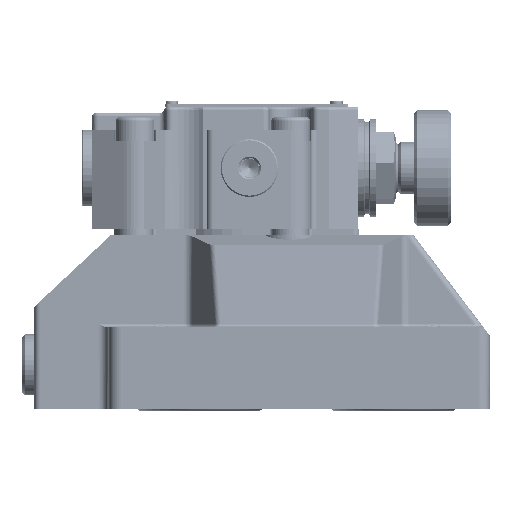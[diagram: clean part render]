
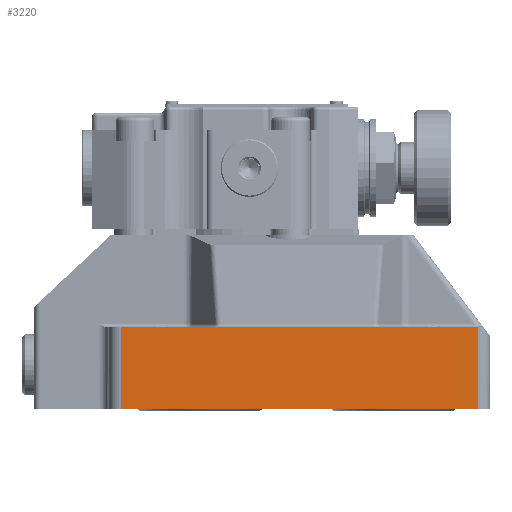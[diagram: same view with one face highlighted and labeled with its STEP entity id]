
A CAD part, front view. The second image highlights one B-rep face of the part: STEP entity #3220.
In plain terms, the highlighted planar face has unit normal (0, -1, 0).
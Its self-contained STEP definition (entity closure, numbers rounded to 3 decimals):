
#2054=FACE_OUTER_BOUND('',#5074,.T.);
#3220=ADVANCED_FACE('',(#2054),#3856,.T.);
#3856=PLANE('',#12610);
#5074=EDGE_LOOP('',(#6324,#6325,#6326,#6327));
#6324=ORIENTED_EDGE('',*,*,#10036,.T.);
#6325=ORIENTED_EDGE('',*,*,#10073,.T.);
#6326=ORIENTED_EDGE('',*,*,#9868,.F.);
#6327=ORIENTED_EDGE('',*,*,#10074,.T.);
#8825=VERTEX_POINT('',#28017);
#8826=VERTEX_POINT('',#28018);
#8989=VERTEX_POINT('',#28560);
#8990=VERTEX_POINT('',#28562);
#9868=EDGE_CURVE('',#8825,#8826,#11249,.T.);
#10036=EDGE_CURVE('',#8990,#8989,#11346,.T.);
#10073=EDGE_CURVE('',#8989,#8826,#11359,.T.);
#10074=EDGE_CURVE('',#8825,#8990,#11360,.T.);
#11249=LINE('',#28016,#11853);
#11346=LINE('',#28561,#11950);
#11359=LINE('',#28635,#11963);
#11360=LINE('',#28636,#11964);
#11853=VECTOR('',#13859,1.);
#11950=VECTOR('',#14102,1.);
#11963=VECTOR('',#14179,1.);
#11964=VECTOR('',#14180,1.);
#12610=AXIS2_PLACEMENT_3D('',#28637,#14181,#14182);
#13859=DIRECTION('',(1.,0.,0.));
#14102=DIRECTION('',(1.,0.,0.));
#14179=DIRECTION('',(0.,0.,1.));
#14180=DIRECTION('',(0.,0.,-1.));
#14181=DIRECTION('',(0.,-1.,0.));
#14182=DIRECTION('',(1.,0.,0.));
#28016=CARTESIAN_POINT('',(-615.97,-114.432,58.));
#28017=CARTESIAN_POINT('',(-736.77,-114.432,58.));
#28018=CARTESIAN_POINT('',(-619.97,-114.432,58.));
#28560=CARTESIAN_POINT('',(-619.97,-114.432,31.));
#28561=CARTESIAN_POINT('',(-615.97,-114.432,31.));
#28562=CARTESIAN_POINT('',(-736.77,-114.432,31.));
#28635=CARTESIAN_POINT('',(-619.97,-114.432,55.025));
#28636=CARTESIAN_POINT('',(-736.77,-114.432,31.));
#28637=CARTESIAN_POINT('',(-615.97,-114.432,31.));
